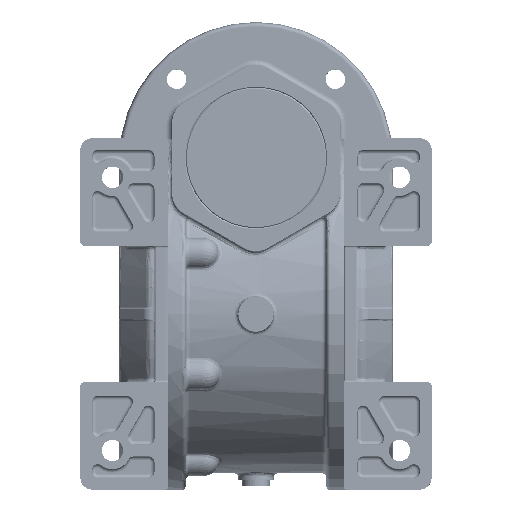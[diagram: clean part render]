
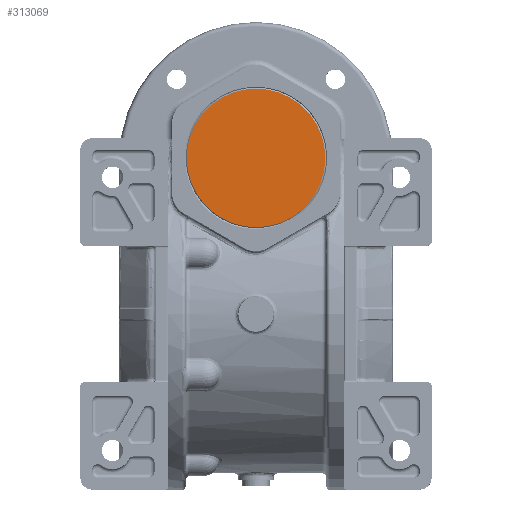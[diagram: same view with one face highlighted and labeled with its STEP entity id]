
A CAD part, top view. The second image highlights one B-rep face of the part: STEP entity #313069.
In plain terms, the highlighted planar face has unit normal (0, 0, 1).
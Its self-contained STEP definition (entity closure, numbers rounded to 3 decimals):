
#62168 = AXIS2_PLACEMENT_3D ( 'NONE', #63685, #63801, #63800 ) ;
#62169 = CIRCLE ( 'NONE', #62168, 35.5 ) ;
#63685 = CARTESIAN_POINT ( 'NONE',  ( 0., 0., 0. ) ) ;
#63799 = FACE_OUTER_BOUND ( 'NONE', #313072, .T. ) ;
#63800 = DIRECTION ( 'NONE',  ( 0., 1., 0. ) ) ;
#63801 = DIRECTION ( 'NONE',  ( 0., 0., -1. ) ) ;
#66148 = CARTESIAN_POINT ( 'NONE',  ( 0., -35.5, 0. ) ) ;
#66149 = CARTESIAN_POINT ( 'NONE',  ( 0., 35.5, 0. ) ) ;
#66150 = DIRECTION ( 'NONE',  ( 0., 1., 0. ) ) ;
#66151 = DIRECTION ( 'NONE',  ( 0., 0., -1. ) ) ;
#66152 = AXIS2_PLACEMENT_3D ( 'NONE', #66165, #66151, #66150 ) ;
#66154 = CIRCLE ( 'NONE', #66152, 35.5 ) ;
#66165 = CARTESIAN_POINT ( 'NONE',  ( 0., 0., 0. ) ) ;
#66243 = DIRECTION ( 'NONE',  ( 0., -1., 0. ) ) ;
#66245 = DIRECTION ( 'NONE',  ( 0., 0., 1. ) ) ;
#66247 = CARTESIAN_POINT ( 'NONE',  ( 0., 0., 0. ) ) ;
#66249 = AXIS2_PLACEMENT_3D ( 'NONE', #66247, #66245, #66243 ) ;
#66251 = PLANE ( 'NONE',  #66249 ) ;
#313020 = EDGE_CURVE ( 'NONE', #313022, #313024, #66154, .T. ) ;
#313022 = VERTEX_POINT ( 'NONE', #66149 ) ;
#313024 = VERTEX_POINT ( 'NONE', #66148 ) ;
#313062 = EDGE_CURVE ( 'NONE', #313024, #313022, #62169, .T. ) ;
#313069 = ADVANCED_FACE ( 'NONE', ( #63799 ), #66251, .T. ) ;
#313072 = EDGE_LOOP ( 'NONE', ( #313074, #313076 ) ) ;
#313074 = ORIENTED_EDGE ( 'NONE', *, *, #313020, .F. ) ;
#313076 = ORIENTED_EDGE ( 'NONE', *, *, #313062, .F. ) ;
